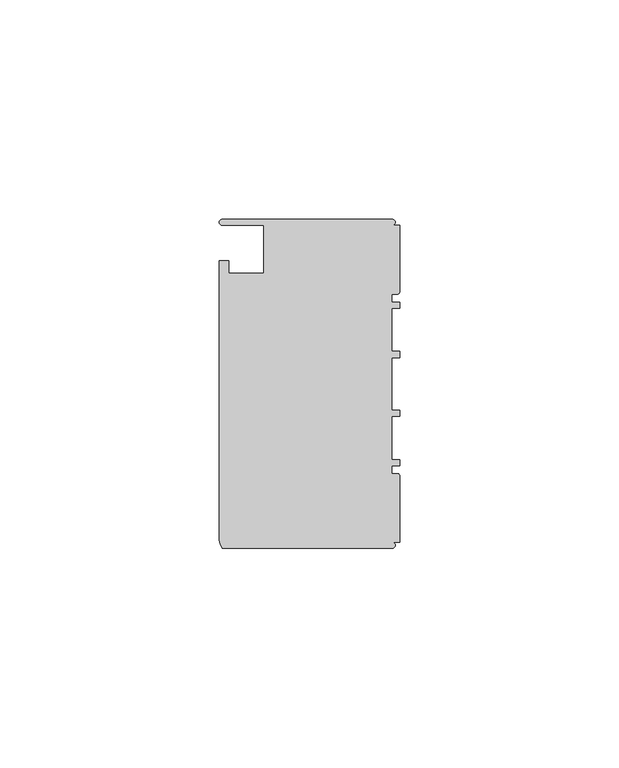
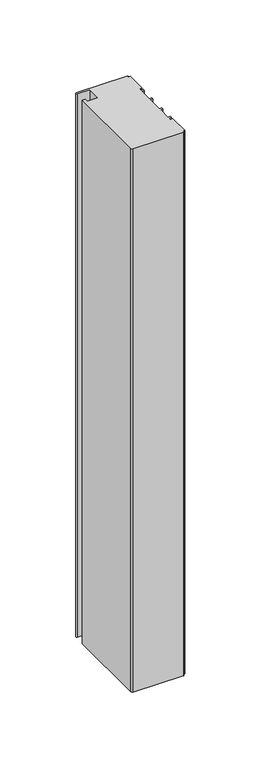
"""IFC4 building model written with IfcOpenShell, lengths in millimetres: member geometry, Прямоугольный импост : 1-AMG-1-Профиль 40Х75 Низ Л."""

from ifc_helpers import new_model, si_unit, point, frame, frame_2d, origin, place, context, project, spatial, polyline, circle_curve, trimmed, segment, composite_curve, outline, extrude, source, transform, mapped, element, save


def member_c9db6dfb(model_context):
    return source(origin(), model_context, "Body", "SweptSolid", [
        extrude(outline(composite_curve([segment(polyline([(37.5, -1.7), (37.5, -40.4)]), True, "CONTINUOUS"), segment(trimmed(circle_curve(frame_2d((36.8, -40.4)), 0.7), [point((37.5, -40.4))], [point((36.1, -40.4))], False, "CARTESIAN"), True, "CONTINUOUS"), segment(polyline([(36.1, -40.4), (36.1, -31.0), (25.25, -31.0), (25.25, -39.0), (28.1, -39.0), (28.1, -41.1), (-35.6, -41.1)]), True, "CONTINUOUS"), segment(trimmed(circle_curve(frame_2d((-35.6, -38.1714286)), 2.9285714), [point((-35.6, -41.1))], [point((-37.5, -40.4))], False, "CARTESIAN"), True, "CONTINUOUS"), segment(polyline([(-37.5, -40.4), (-37.5, -1.7)]), True, "CONTINUOUS"), segment(trimmed(circle_curve(frame_2d((-36.8, -1.7)), 0.7), [point((-37.5, -1.7))], [point((-36.1, -1.7))], False, "CARTESIAN"), True, "CONTINUOUS"), segment(polyline([(-36.1, -1.7), (-36.1, 0.0), (-20.95, 0.0)]), True, "CONTINUOUS"), segment(trimmed(circle_curve(frame_2d((-20.95, -0.5)), 0.5), [point((-20.95, 0.0))], [point((-20.45, -0.5))], False, "CARTESIAN"), True, "CONTINUOUS"), segment(polyline([(-20.45, -0.5), (-20.45, -1.8), (-18.65, -1.8), (-18.65, 0.0), (-17.25, 0.0), (-17.25, -1.8), (-7.4, -1.8), (-7.4, 0.0), (-6.0, 0.0), (-6.0, -1.8), (6.0, -1.8), (6.0, 0.0), (7.4, 0.0), (7.4, -1.8), (17.25, -1.8), (17.25, 0.0), (18.65, 0.0), (18.65, -1.8), (20.45, -1.8), (20.45, -0.5)]), True, "CONTINUOUS"), segment(trimmed(circle_curve(frame_2d((20.95, -0.5)), 0.5), [point((20.45, -0.5))], [point((20.95, 0.0))], False, "CARTESIAN"), True, "CONTINUOUS"), segment(polyline([(20.95, 0.0), (36.1, 0.0), (36.1, -1.7)]), True, "CONTINUOUS"), segment(trimmed(circle_curve(frame_2d((36.8, -1.7)), 0.7), [point((36.1, -1.7))], [point((37.5, -1.7))], False, "CARTESIAN"), True, "CONTINUOUS")], self_intersect=False)), frame((0.0, 0.0, 0.0), z_axis=(0.0, 0.0, -1.0), x_axis=(0.0, 1.0, 0.0)), (0.0, 0.0, 1.0), 440.0),
    ])


if __name__ == "__main__":
    model = new_model("IFC4")
    model_context = context("Model", 3, world=origin())
    ifc_project = project(units=[si_unit("LENGTHUNIT", "METRE", prefix="MILLI")], contexts=[model_context])
    site = spatial("IfcSite", under=ifc_project)
    building = spatial("IfcBuilding", under=site)
    placement = place(None, origin())
    member_shape = member_c9db6dfb(model_context)
    element("IfcMember", 1, ObjectType="Прямоугольный импост : 1-AMG-1-Профиль 40Х75 Низ Л", at=placement, inside=building, context=model_context, shape_type="MappedRepresentation", body=[
        mapped(member_shape, transform((0.0, 0.0, 0.0), x_axis=(1.0, 0.0, 0.0), y_axis=(0.0, 1.0, 0.0), z_axis=(0.0, 0.0, 1.0))),
    ])
    save(model, "model.ifc")
